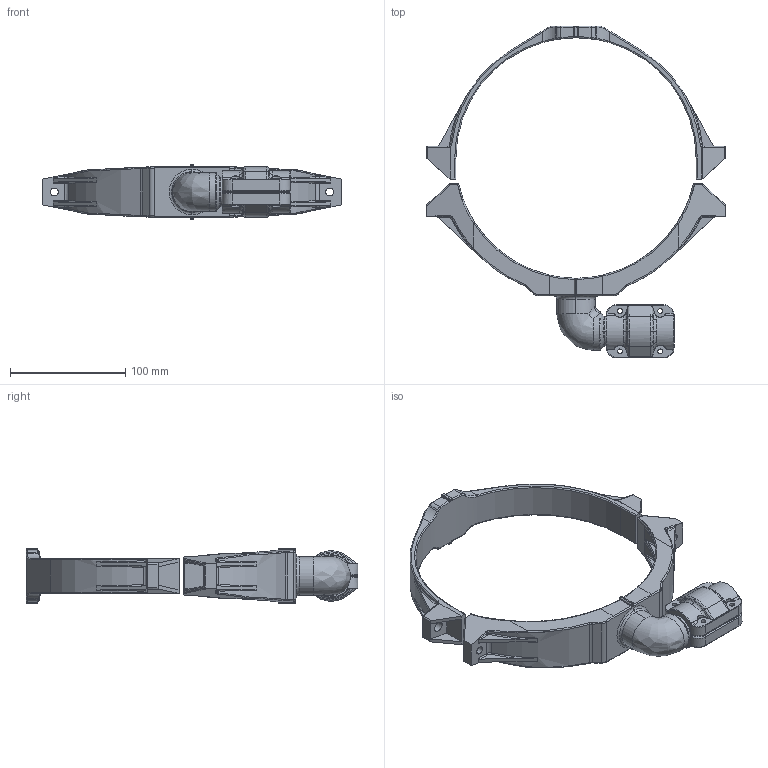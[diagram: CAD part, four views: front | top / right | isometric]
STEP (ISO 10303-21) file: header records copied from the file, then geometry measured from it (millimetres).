
FILE_DESCRIPTION((''),'2;1');
FILE_NAME('2015A21099_ASM_2_ASM','2017-05-15T',('Administrator'),(''),'PRO/ENGINEER BY PARAMETRIC TECHNOLOGY CORPORATION, 2009360','PRO/ENGINEER BY PARAMETRIC TECHNOLOGY CORPORATION, 2009360','');
FILE_SCHEMA(('AUTOMOTIVE_DESIGN_CC2 { 1 2 10303 214 -1 1 5 2 }'));
Length unit declared in the file: millimetre
Products named in the file (8): MANIFOLD_SOLID_BREP_95_5_1; MANIFOLD_SOLID_BREP_96_5_1; 2017A210_ASM_4_ASM_1_ASM; 2017A210_ASM_ASM_1_ASM; 201520020000_23_1; 201520020001_10_1; 2015200200_ASM_1_ASM; 2015A21099_ASM_2_ASM
Assembly tree (7 placements, depth 4):
  2015A21099_ASM_2_ASM
    2017A210_ASM_ASM_1_ASM
      2017A210_ASM_4_ASM_1_ASM
        MANIFOLD_SOLID_BREP_95_5_1
        MANIFOLD_SOLID_BREP_96_5_1
    2015200200_ASM_1_ASM
      201520020000_23_1
      201520020001_10_1
Bounding box: 259.05 x 287.61 x 48.57 mm (x, y, z)
Volume: 307540.7 mm3; surface area: 112041.1 mm2
Topology: 4 solids, 4 shells, 1097 faces, 2646 edges, 1468 vertices
Faces by surface type: bspline 360, cylinder 345, plane 187, torus 120, sphere 77, cone 8
Entity records: 79255 total; most frequent: CARTESIAN_POINT 49448, ORIENTED_EDGE 5092, DIRECTION 3794, PRESENTATION_STYLE_ASSIGNMENT 2550, STYLED_ITEM 2550, CURVE_STYLE 2546, EDGE_CURVE 2546, AXIS2_PLACEMENT_3D 1539
